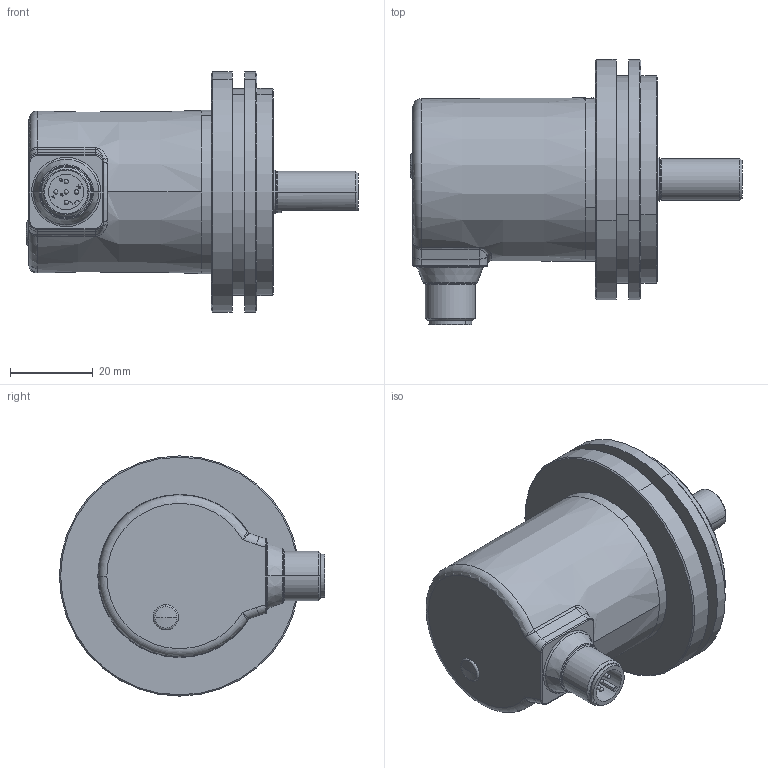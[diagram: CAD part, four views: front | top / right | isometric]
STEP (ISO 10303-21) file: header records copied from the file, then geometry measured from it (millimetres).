
FILE_DESCRIPTION (( 'STEP AP214' ), '1' );
FILE_NAME ('REM-E-195x10S-xxxxx-H11.STEP', '2021-07-08T14:42:49', ( '' ), ( '' ), 'SwSTEP 2.0', 'SolidWorks 2019', '' );
FILE_SCHEMA (( 'AUTOMOTIVE_DESIGN' ));
Length unit declared in the file: millimetre
Products named in the file (1): REM-E-195x10S-xxxxx-H11
Bounding box: 80.15 x 64 x 58 mm (x, y, z)
Volume: 86535.7 mm3; surface area: 21855.8 mm2
Topology: 4 solids, 8 shells, 428 faces, 1013 edges, 617 vertices
Faces by surface type: cylinder 123, plane 100, torus 76, cone 68, bspline 54, sphere 7
Entity records: 18013 total; most frequent: CARTESIAN_POINT 5831, DIRECTION 2070, ORIENTED_EDGE 1984, EDGE_CURVE 992, AXIS2_PLACEMENT_3D 863, VERTEX_POINT 616, CIRCLE 488, EDGE_LOOP 482
